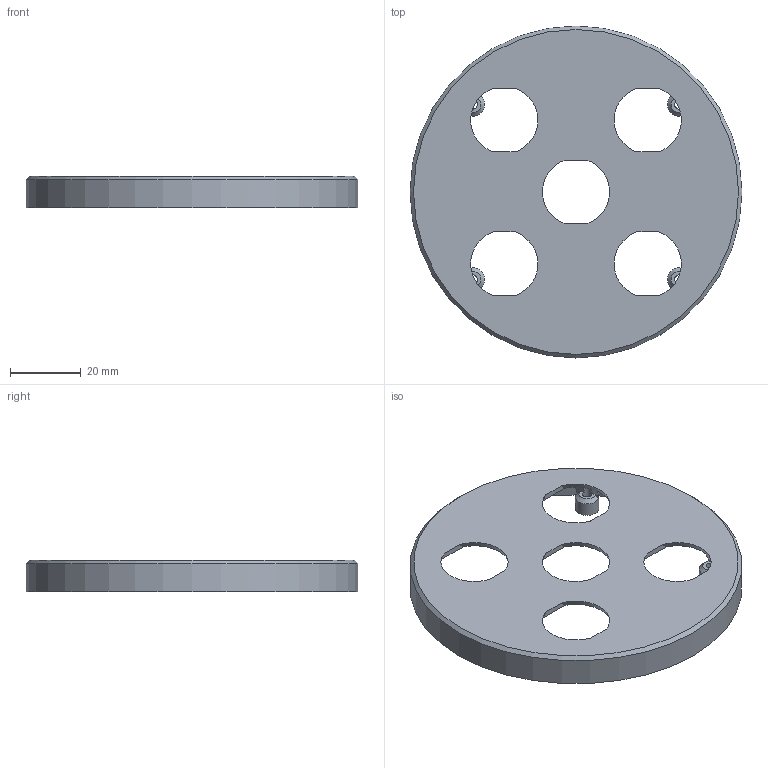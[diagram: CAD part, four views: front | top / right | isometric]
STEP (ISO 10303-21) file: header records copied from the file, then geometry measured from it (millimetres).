
FILE_DESCRIPTION(/* description */ (''),/* implementation_level */ '2;1');
FILE_NAME(/* name */ 'Case_top.stp',/* time_stamp */ '2019-01-13T14:32:27+01:00',/* author */ (''),/* organization */ (''),/* preprocessor_version */ 'ST-DEVELOPER v16',/* originating_system */ 'SIEMENS PLM Software NX 11.0',/* authorisation */ '');
FILE_SCHEMA (('AUTOMOTIVE_DESIGN { 1 0 10303 214 3 1 1 1 }'));
Length unit declared in the file: millimetre
Products named in the file (1): Case_top
Bounding box: 94 x 94 x 9 mm (x, y, z)
Volume: 13451.5 mm3; surface area: 16813 mm2
Topology: 1 solids, 1 shells, 65 faces, 204 edges, 135 vertices
Faces by surface type: plane 34, cylinder 16, cone 15
Full cylindrical faces by diameter (mm): 2.6 x4, 92 x1, 94 x1
Entity records: 2300 total; most frequent: CARTESIAN_POINT 550, ORIENTED_EDGE 378, DIRECTION 346, EDGE_CURVE 189, AXIS2_PLACEMENT_3D 145, VERTEX_POINT 129, EDGE_LOOP 82, CIRCLE 81
